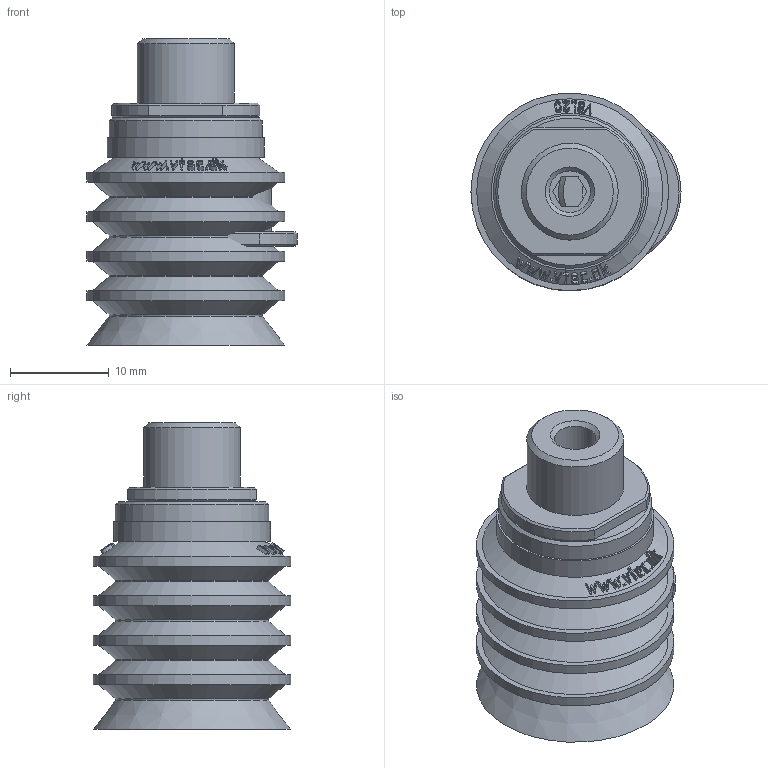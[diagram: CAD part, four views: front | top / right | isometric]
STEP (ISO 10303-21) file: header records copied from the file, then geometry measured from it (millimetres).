
FILE_DESCRIPTION( ( 'STEP AP203' ), '1' );
FILE_NAME( 'C:/撲啗紫賊-02/3D-蘋驍煎斜/Vacuum Pad/VBL series/VBL20-M518MF.stp', '2006-04-24T11:43:59', ( ' ' ), ( ' ' ), 'XStep 1.0', ' ', ' ' );
FILE_SCHEMA( ( 'CONFIG_CONTROL_DESIGN) ( )' ) );
Length unit declared in the file: metre
Products named in the file (3): Assem1; 1; 2
Bounding box: 21.25 x 20 x 31 mm (x, y, z)
Volume: 4723.8 mm3; surface area: 9455.4 mm2
Topology: 4 solids, 4 shells, 480 faces, 1106 edges, 716 vertices
Faces by surface type: bspline 262, cone 102, plane 72, cylinder 36, torus 8
Full cylindrical faces by diameter (mm): 4.2 x2, 5 x2, 5.5 x2, 5.8 x2, 6 x4, 6.4 x2, 6.5 x2, 7.9 x2, 9.8 x2, 15.5 x2, 15.9 x2, 20 x8
Entity records: 10487 total; most frequent: CARTESIAN_POINT 5983, ORIENTED_EDGE 1010, DIRECTION 515, EDGE_CURVE 505, VERTEX_POINT 358, EDGE_LOOP 333, B_SPLINE_CURVE_WITH_KNOTS 290, FACE_OUTER_BOUND 262
